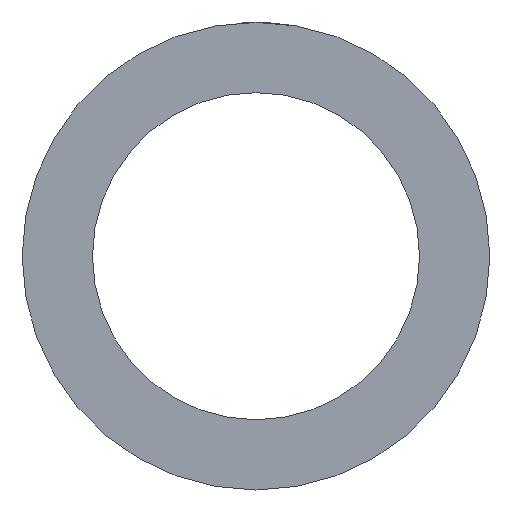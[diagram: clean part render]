
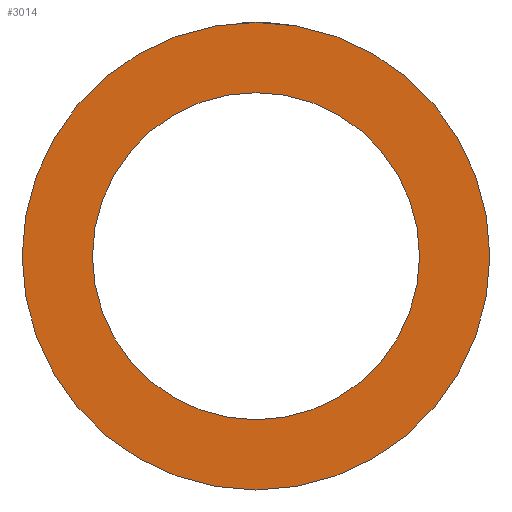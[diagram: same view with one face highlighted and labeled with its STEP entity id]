
A CAD part, left-side view. The second image highlights one B-rep face of the part: STEP entity #3014.
In plain terms, the highlighted planar face has unit normal (-1, 0, 0).
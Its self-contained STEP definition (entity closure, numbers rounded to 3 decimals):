
#50 = DIRECTION ( 'NONE',  ( 0., 0., 1. ) ) ;
#108 = DIRECTION ( 'NONE',  ( -1., 0., 0. ) ) ;
#127 = CARTESIAN_POINT ( 'NONE',  ( 0., 0., 0. ) ) ;
#232 = ORIENTED_EDGE ( 'NONE', *, *, #3062, .F. ) ;
#302 = CIRCLE ( 'NONE', #2447, 292.5 ) ;
#303 = DIRECTION ( 'NONE',  ( 0., 0., -1. ) ) ;
#359 = DIRECTION ( 'NONE',  ( 1., 0., 0. ) ) ;
#368 = CARTESIAN_POINT ( 'NONE',  ( 0., 204.6, 0. ) ) ;
#392 = DIRECTION ( 'NONE',  ( 0., 0., 1. ) ) ;
#427 = CIRCLE ( 'NONE', #2703, 204.6 ) ;
#462 = FACE_BOUND ( 'NONE', #1532, .T. ) ;
#485 = PLANE ( 'NONE',  #3260 ) ;
#544 = VERTEX_POINT ( 'NONE', #1009 ) ;
#545 = CARTESIAN_POINT ( 'NONE',  ( 0., 0., 292.5 ) ) ;
#588 = VERTEX_POINT ( 'NONE', #545 ) ;
#676 = CARTESIAN_POINT ( 'NONE',  ( 0., 0., 0. ) ) ;
#729 = FACE_OUTER_BOUND ( 'NONE', #1180, .T. ) ;
#1009 = CARTESIAN_POINT ( 'NONE',  ( 0., 0., -292.5 ) ) ;
#1180 = EDGE_LOOP ( 'NONE', ( #2521, #3035 ) ) ;
#1182 = VERTEX_POINT ( 'NONE', #2175 ) ;
#1239 = CARTESIAN_POINT ( 'NONE',  ( 0., 0., 0. ) ) ;
#1244 = DIRECTION ( 'NONE',  ( -1., 0., 0. ) ) ;
#1511 = CIRCLE ( 'NONE', #2654, 292.5 ) ;
#1532 = EDGE_LOOP ( 'NONE', ( #2267, #232 ) ) ;
#1692 = DIRECTION ( 'NONE',  ( -1., 0., 0. ) ) ;
#2039 = EDGE_CURVE ( 'NONE', #1182, #2129, #2659, .T. ) ;
#2099 = EDGE_CURVE ( 'NONE', #544, #588, #1511, .T. ) ;
#2129 = VERTEX_POINT ( 'NONE', #2827 ) ;
#2175 = CARTESIAN_POINT ( 'NONE',  ( 0., 0., 204.6 ) ) ;
#2267 = ORIENTED_EDGE ( 'NONE', *, *, #2039, .F. ) ;
#2380 = DIRECTION ( 'NONE',  ( 0., 0., 1. ) ) ;
#2447 = AXIS2_PLACEMENT_3D ( 'NONE', #676, #1692, #2380 ) ;
#2521 = ORIENTED_EDGE ( 'NONE', *, *, #2614, .T. ) ;
#2614 = EDGE_CURVE ( 'NONE', #588, #544, #302, .T. ) ;
#2654 = AXIS2_PLACEMENT_3D ( 'NONE', #1239, #1244, #392 ) ;
#2659 = CIRCLE ( 'NONE', #2700, 204.6 ) ;
#2700 = AXIS2_PLACEMENT_3D ( 'NONE', #127, #108, #50 ) ;
#2703 = AXIS2_PLACEMENT_3D ( 'NONE', #3262, #3258, #3256 ) ;
#2827 = CARTESIAN_POINT ( 'NONE',  ( 0., 0., -204.6 ) ) ;
#3014 = ADVANCED_FACE ( 'NONE', ( #462, #729 ), #485, .F. ) ;
#3035 = ORIENTED_EDGE ( 'NONE', *, *, #2099, .T. ) ;
#3062 = EDGE_CURVE ( 'NONE', #2129, #1182, #427, .T. ) ;
#3256 = DIRECTION ( 'NONE',  ( 0., 0., 1. ) ) ;
#3258 = DIRECTION ( 'NONE',  ( -1., 0., 0. ) ) ;
#3260 = AXIS2_PLACEMENT_3D ( 'NONE', #368, #359, #303 ) ;
#3262 = CARTESIAN_POINT ( 'NONE',  ( 0., 0., 0. ) ) ;
